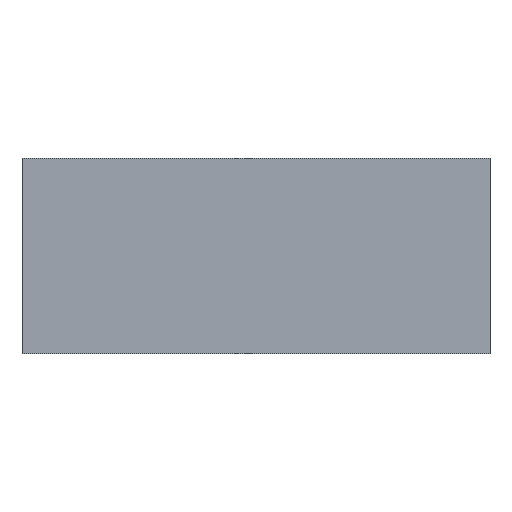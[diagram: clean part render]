
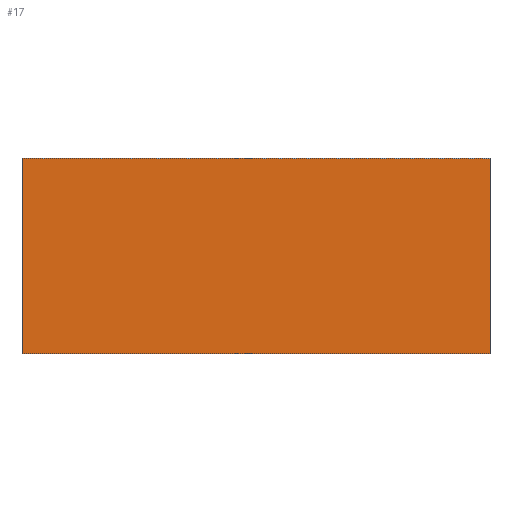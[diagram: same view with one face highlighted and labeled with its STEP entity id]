
A CAD part, left-side view. The second image highlights one B-rep face of the part: STEP entity #17.
In plain terms, the highlighted planar face has unit normal (-1, 0, 0).
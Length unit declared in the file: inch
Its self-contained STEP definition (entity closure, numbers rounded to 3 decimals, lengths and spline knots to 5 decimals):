
#17=ADVANCED_FACE('',(#23),#91,.T.);
#23=FACE_OUTER_BOUND('',#29,.T.);
#29=EDGE_LOOP('',(#44,#45,#46,#47));
#44=ORIENTED_EDGE('',*,*,#59,.T.);
#45=ORIENTED_EDGE('',*,*,#64,.T.);
#46=ORIENTED_EDGE('',*,*,#63,.F.);
#47=ORIENTED_EDGE('',*,*,#67,.F.);
#59=EDGE_CURVE('',#83,#80,#71,.T.);
#63=EDGE_CURVE('',#87,#84,#75,.T.);
#64=EDGE_CURVE('',#80,#84,#76,.T.);
#67=EDGE_CURVE('',#83,#87,#79,.T.);
#71=B_SPLINE_CURVE_WITH_KNOTS('',1,(#223,#224),.UNSPECIFIED.,.F.,.F.,(2,
2),(0.,24.),.UNSPECIFIED.);
#75=B_SPLINE_CURVE_WITH_KNOTS('',1,(#231,#232),.UNSPECIFIED.,.F.,.F.,(2,
2),(0.,24.),.UNSPECIFIED.);
#76=B_SPLINE_CURVE_WITH_KNOTS('',1,(#233,#234),.UNSPECIFIED.,.F.,.F.,(2,
2),(0.,10.),.UNSPECIFIED.);
#79=B_SPLINE_CURVE_WITH_KNOTS('',1,(#239,#240),.UNSPECIFIED.,.F.,.F.,(2,
2),(0.,10.),.UNSPECIFIED.);
#80=VERTEX_POINT('',#209);
#83=VERTEX_POINT('',#212);
#84=VERTEX_POINT('',#213);
#87=VERTEX_POINT('',#216);
#91=PLANE('',#188);
#188=AXIS2_PLACEMENT_3D('',#206,#197,$);
#197=DIRECTION('',(-1.,0.,0.));
#206=CARTESIAN_POINT('',(0.,24.,0.));
#209=CARTESIAN_POINT('',(0.,0.,0.));
#212=CARTESIAN_POINT('',(0.,24.,0.));
#213=CARTESIAN_POINT('',(0.,0.,10.));
#216=CARTESIAN_POINT('',(0.,24.,10.));
#223=CARTESIAN_POINT('',(0.,24.,0.));
#224=CARTESIAN_POINT('',(0.,0.,0.));
#231=CARTESIAN_POINT('',(0.,24.,10.));
#232=CARTESIAN_POINT('',(0.,0.,10.));
#233=CARTESIAN_POINT('',(0.,0.,0.));
#234=CARTESIAN_POINT('',(0.,0.,10.));
#239=CARTESIAN_POINT('',(0.,24.,0.));
#240=CARTESIAN_POINT('',(0.,24.,10.));
